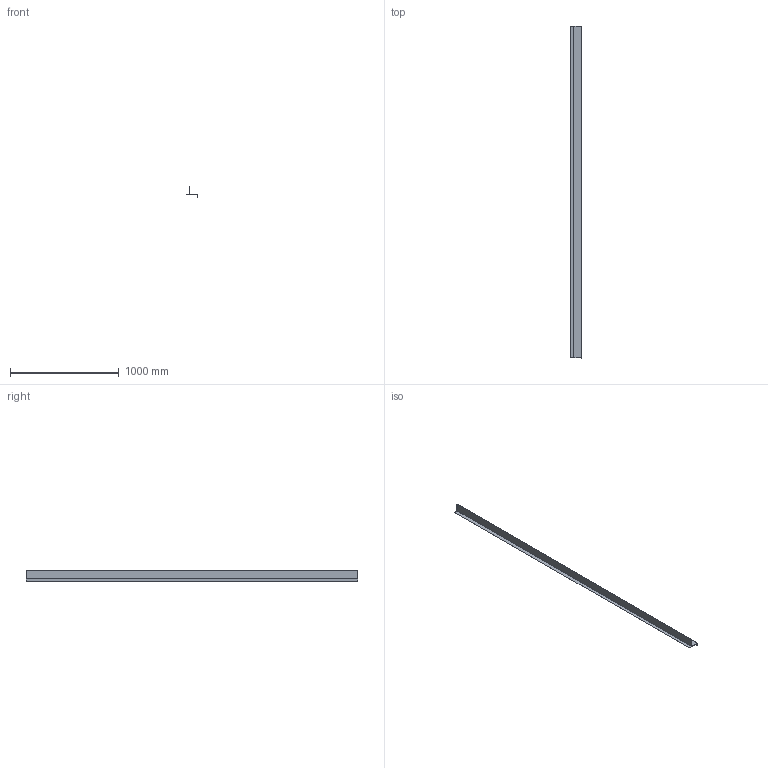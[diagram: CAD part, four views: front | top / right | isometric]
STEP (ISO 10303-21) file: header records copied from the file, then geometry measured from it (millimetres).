
FILE_DESCRIPTION(/* description */ (''),/* implementation_level */ '2;1');
FILE_NAME(/* name */ 'C:\Users\Utilisateur\Mac Metal\Site de communication - Documents\Ingénierie\Développement de produits\Board and Batten\Dessins\Moulures\M57H\M57H.stp',/* time_stamp */ '2022-08-10T14:59:45-04:00',/* author */ ('Utilisateur'),/* organization */ (''),/* preprocessor_version */ 'ST-DEVELOPER v18.1',/* originating_system */ 'Autodesk Inventor 2021',/* authorisation */ '');
FILE_SCHEMA (('AUTOMOTIVE_DESIGN { 1 0 10303 214 3 1 1 }'));
Length unit declared in the file: inch
Products named in the file (1): Solin à palette à angle droit
Bounding box: 104.39 x 3048 x 106.96 mm (x, y, z)
Volume: 580404 mm3; surface area: 1891797.2 mm2
Topology: 1 solids, 1 shells, 22 faces, 60 edges, 40 vertices
Faces by surface type: plane 14, cylinder 8
Entity records: 743 total; most frequent: CARTESIAN_POINT 123, DIRECTION 122, ORIENTED_EDGE 120, EDGE_CURVE 60, LINE 44, VECTOR 44, VERTEX_POINT 40, AXIS2_PLACEMENT_3D 39
